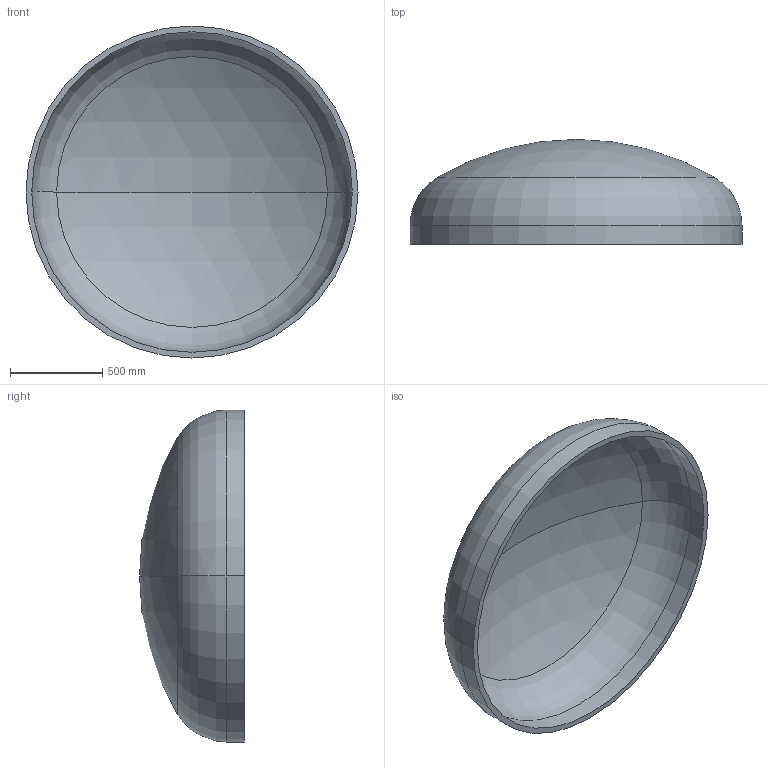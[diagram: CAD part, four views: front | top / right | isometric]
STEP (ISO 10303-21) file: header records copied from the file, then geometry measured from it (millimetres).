
FILE_DESCRIPTION (( 'STEP AP203' ), '1' );
FILE_NAME ('DIN 28013 Korbbogenform_-_Boden DIN 28013 - 1800 x 100 - I - s=31.step', '2016-07-01T12:25:58', ( '' ), ( '' ), 'SwSTEP 2.0', 'SolidWorks 2013', '' );
FILE_SCHEMA (( 'CONFIG_CONTROL_DESIGN' ));
Length unit declared in the file: millimetre
Products named in the file (1): DIN 28013 Korbbogenform_-_Boden DIN 28013 - 1800 x 100 - I - s=31
Bounding box: 1800 x 568.81 x 1800 mm (x, y, z)
Volume: 123861849.7 mm3; surface area: 8165378.9 mm2
Topology: 1 solids, 1 shells, 13 faces, 24 edges, 14 vertices
Faces by surface type: torus 4, cylinder 4, sphere 4, plane 1
Entity records: 407 total; most frequent: DIRECTION 72, CARTESIAN_POINT 52, ORIENTED_EDGE 48, AXIS2_PLACEMENT_3D 34, EDGE_CURVE 24, CIRCLE 20, VERTEX_POINT 14, EDGE_LOOP 14
